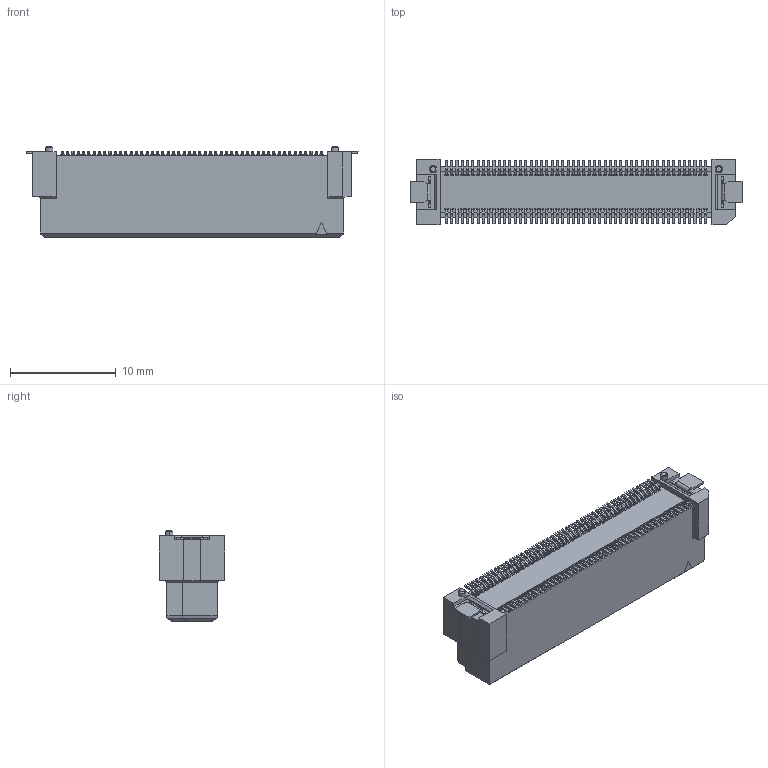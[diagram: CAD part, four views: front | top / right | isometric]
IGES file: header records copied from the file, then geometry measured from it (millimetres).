
Start section: Elysium IGES Interface
Global section: file name: 80HC:\Users\1502\Desktop\DT_webリニューアル\プラグ\ボス有\P3D070_DT11-100S-10-T.igs; native system: Creo Elements/Direct Modeling 19.0F  14-Feb-2017; preprocessor: Creo Element/Direct IGES_3D V2.2; author: Unknown; organization: Unknown; date: 20170811.104923; units: millimetre
Bounding box: 31.4 x 6.2 x 8.63 mm (x, y, z)
Volume: 965.3 mm3; surface area: 1675.4 mm2
Topology: 1 solids, 1 shells, 3541 faces, 9582 edges, 6248 vertices
Faces by surface type: bspline 3541
